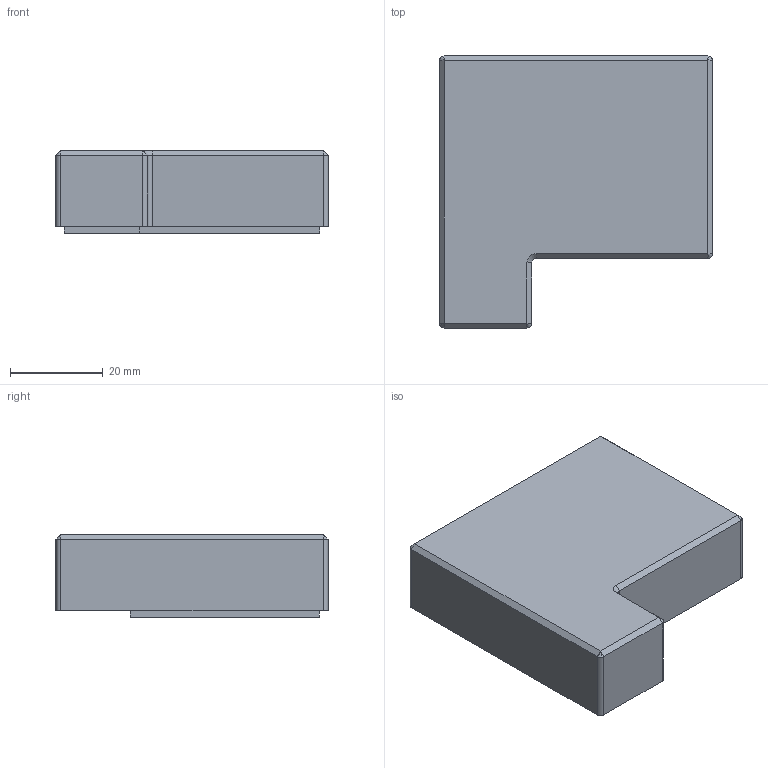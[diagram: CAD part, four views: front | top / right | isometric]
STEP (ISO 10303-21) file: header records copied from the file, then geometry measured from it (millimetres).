
FILE_DESCRIPTION(('FreeCAD Model'),'2;1');
FILE_NAME('Open CASCADE Shape Model','2024-01-26T12:32:08',(''),(''), 'Open CASCADE STEP processor 7.6','FreeCAD','Unknown');
FILE_SCHEMA(('AUTOMOTIVE_DESIGN { 1 0 10303 214 1 1 1 1 }'));
Length unit declared in the file: millimetre
Products named in the file (1): UpperPart
Bounding box: 58.7 x 58.55 x 17.75 mm (x, y, z)
Volume: 13031.3 mm3; surface area: 11858.2 mm2
Topology: 1 solids, 1 shells, 62 faces, 158 edges, 95 vertices
Faces by surface type: plane 44, cylinder 10, cone 7, torus 1
Full cylindrical faces by diameter (mm): 2.8 x1, 10 x1
Entity records: 3840 total; most frequent: CARTESIAN_POINT 683, DIRECTION 601, LINE 414, VECTOR 414, ORIENTED_EDGE 306, PCURVE 306, DEFINITIONAL_REPRESENTATION 306, EDGE_CURVE 153
